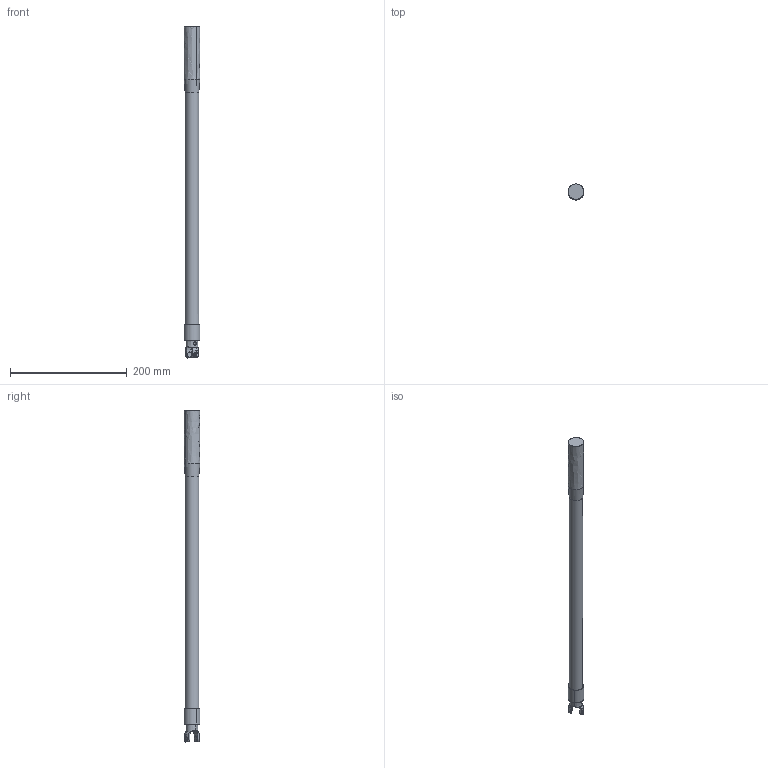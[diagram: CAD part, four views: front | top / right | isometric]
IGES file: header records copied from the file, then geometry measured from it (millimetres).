
Start section: SolidWorks IGES file using analytic representation for surfaces
Global section: file name: C:\Users\SELUHAA\Desktop\Work items\545792\IGES\IRB360_X-1130-STD-4D_rev03_IGES_J\IRB360_X-1130-STD-4D_rev03_ML_CAD.IGS; native system: SolidWorks 2022; preprocessor: SolidWorks 2022; author: SELUHAA; date: 231204.085707; units: millimetre
Bounding box: 27 x 27 x 568.8 mm (x, y, z)
Surface area: 48277.6 mm2 (no closed solid volume)
Topology: 0 solids, 0 shells, 89 faces, 1581 edges, 1578 vertices
Faces by surface type: revolution 52, bspline 37
